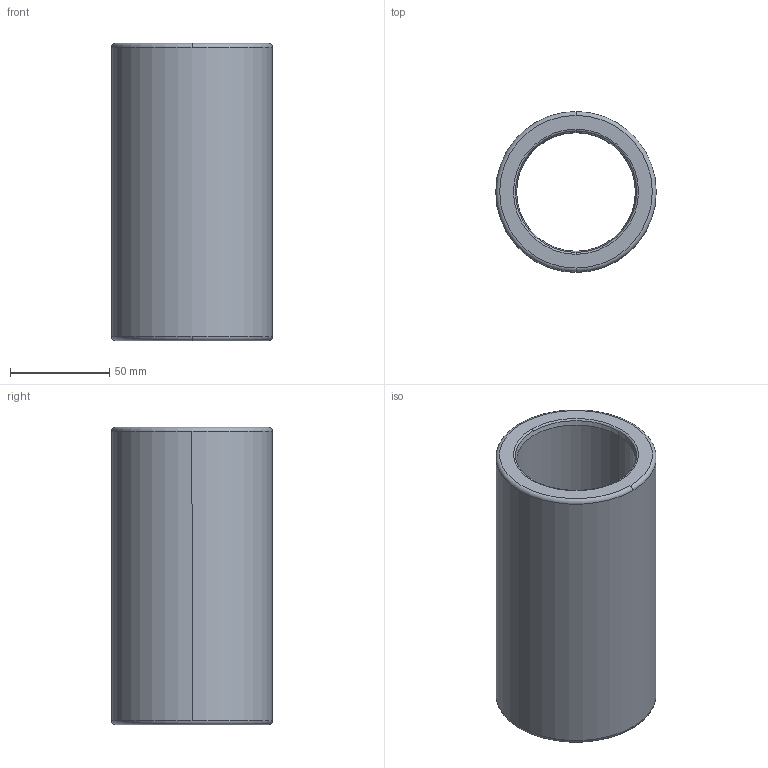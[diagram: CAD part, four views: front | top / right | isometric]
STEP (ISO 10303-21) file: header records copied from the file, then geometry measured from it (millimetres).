
FILE_DESCRIPTION((''),'2;1');
FILE_NAME('B30_048_150.stp','2009-01-12T10:54:13',(''),(''),'Mechanical Desktop 2009','Mechanical Desktop 2009',', , ');
FILE_SCHEMA(('CONFIG_CONTROL_DESIGN'));
Length unit declared in the file: millimetre
Products named in the file (2): Product; blmdl1
Assembly tree (1 placements, depth 2):
  Product
    blmdl1
Bounding box: 80.98 x 80.98 x 150 mm (x, y, z)
Volume: 348135.3 mm3; surface area: 70293.6 mm2
Topology: 1 solids, 1 shells, 18 faces, 48 edges, 32 vertices
Faces by surface type: torus 8, cylinder 4, cone 4, plane 2
Entity records: 705 total; most frequent: DIRECTION 128, CARTESIAN_POINT 100, ORIENTED_EDGE 96, AXIS2_PLACEMENT_3D 60, EDGE_CURVE 48, CIRCLE 40, VERTEX_POINT 32, EDGE_LOOP 20
